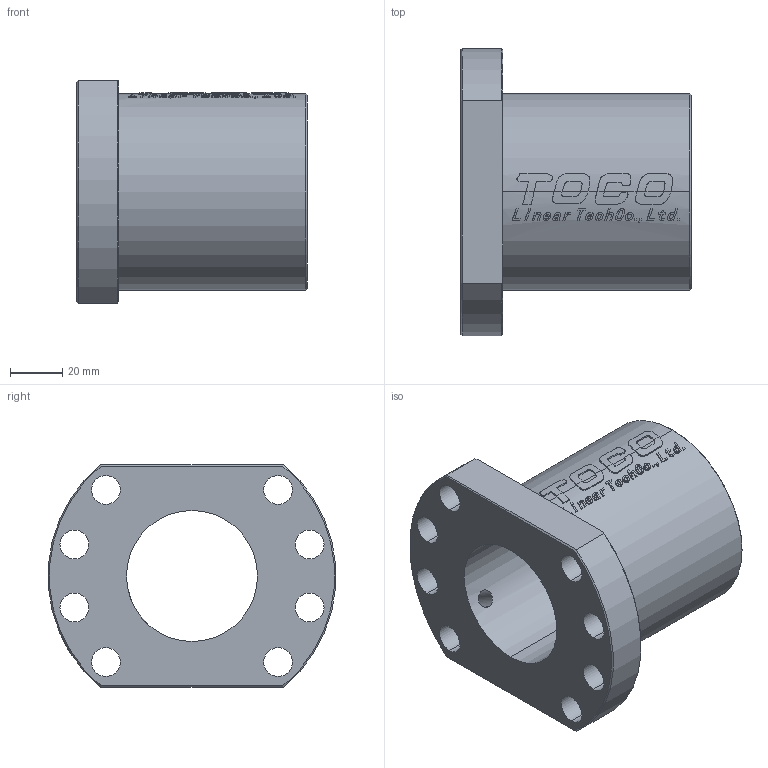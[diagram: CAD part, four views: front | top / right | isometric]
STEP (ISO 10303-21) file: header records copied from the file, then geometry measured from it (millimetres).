
FILE_DESCRIPTION (( 'STEP AP214' ), '1' );
FILE_NAME ('7.3112 STNUR5010T4D.STEP', '2026-03-03T12:05:10', ( '' ), ( '' ), 'SwSTEP 2.0', 'SolidWorks 2025', '' );
FILE_SCHEMA (( 'AUTOMOTIVE_DESIGN' ));
Length unit declared in the file: millimetre
Products named in the file (1): 7.3112 STNUR5010T4D
Bounding box: 88 x 109.65 x 85 mm (x, y, z)
Volume: 265128 mm3; surface area: 52309.1 mm2
Topology: 1 solids, 1 shells, 577 faces, 1642 edges, 1092 vertices
Faces by surface type: bspline 425, plane 86, cylinder 60, cone 6
Entity records: 30472 total; most frequent: CARTESIAN_POINT 18346, ORIENTED_EDGE 3284, EDGE_CURVE 1642, DIRECTION 1131, VERTEX_POINT 1092, B_SPLINE_CURVE_WITH_KNOTS 885, VECTOR 689, LINE 689
